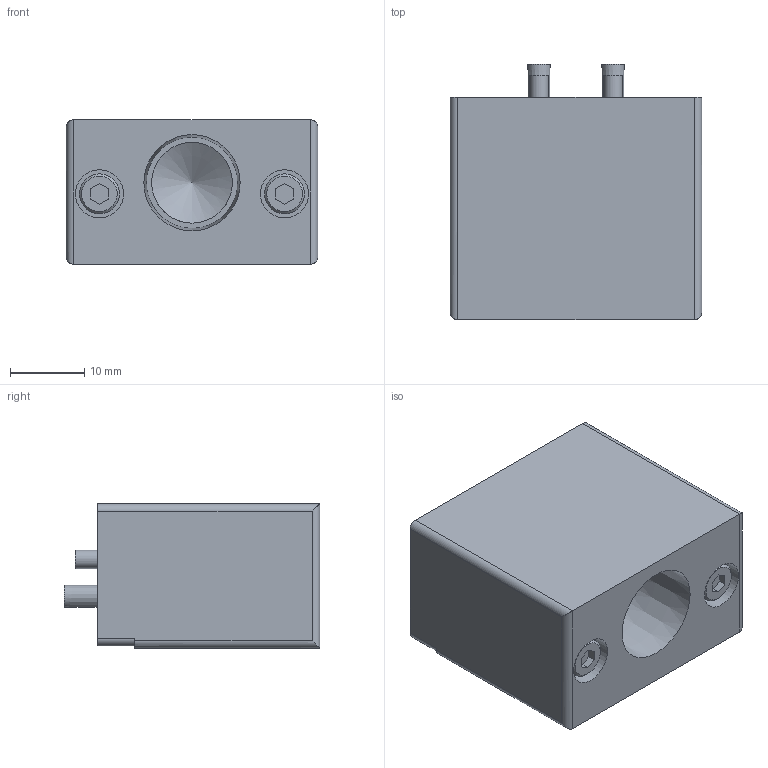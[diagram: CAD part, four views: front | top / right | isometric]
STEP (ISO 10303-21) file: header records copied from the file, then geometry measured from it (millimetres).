
FILE_DESCRIPTION(('STEP AP214'),'1');
FILE_NAME('KHB-3RS-EP81_ver1.stp','2026-04-24T00:47:39',(' '),(' '),'Spatial InterOp 3D',' ',' ');
FILE_SCHEMA(('AUTOMOTIVE_DESIGN { 1 0 10303 214 1 1 1 1 }'));
Length unit declared in the file: millimetre
Products named in the file (1): KHB-3RS-EP81_ver1
Bounding box: 34 x 34.5 x 19.5 mm (x, y, z)
Volume: 16872.7 mm3; surface area: 7127.3 mm2
Topology: 1 solids, 9 shells, 109 faces, 217 edges, 144 vertices
Faces by surface type: plane 67, cylinder 32, cone 10
Full cylindrical faces by diameter (mm): 2.5 x8, 3 x2, 3.5 x4, 5.41 x4, 6.5 x4, 9 x1, 10.9 x1
Entity records: 3512 total; most frequent: CARTESIAN_POINT 496, DIRECTION 460, ORIENTED_EDGE 340, AXIS2_PLACEMENT_3D 181, EDGE_CURVE 170, EDGE_LOOP 168, FACE_OUTER_BOUND 133, VERTEX_POINT 133
